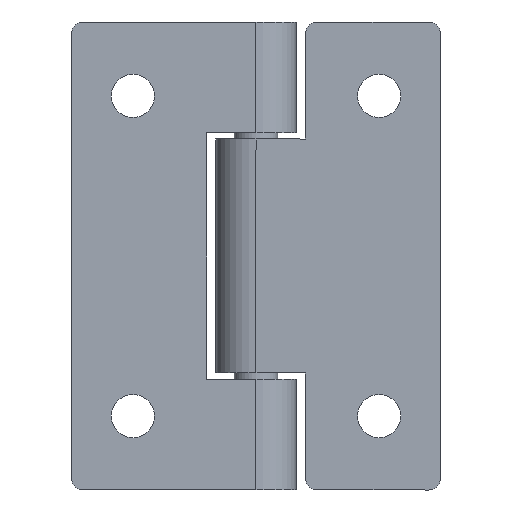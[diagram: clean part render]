
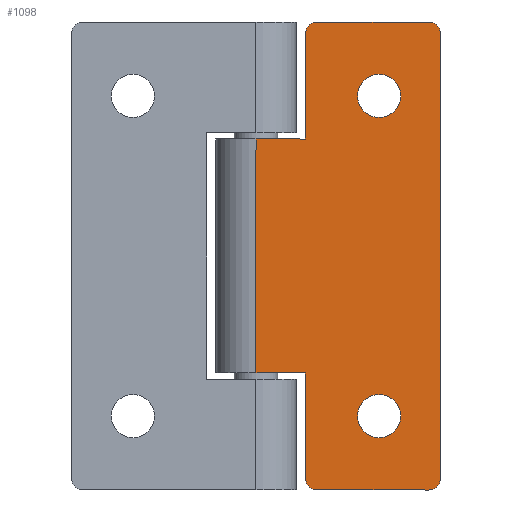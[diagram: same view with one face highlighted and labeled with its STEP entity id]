
A CAD part, front view. The second image highlights one B-rep face of the part: STEP entity #1098.
In plain terms, the highlighted planar face has unit normal (0, -1, 0).
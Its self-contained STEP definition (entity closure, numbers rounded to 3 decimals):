
#4 = CARTESIAN_POINT ( 'NONE',  ( -14., -3.25, -19. ) ) ;
#12 = LINE ( 'NONE', #183, #1663 ) ;
#15 = AXIS2_PLACEMENT_3D ( 'NONE', #1851, #913, #2020 ) ;
#21 = EDGE_CURVE ( 'NONE', #1733, #369, #150, .T. ) ;
#33 = LINE ( 'NONE', #250, #2075 ) ;
#42 = VERTEX_POINT ( 'NONE', #68 ) ;
#51 = CARTESIAN_POINT ( 'NONE',  ( -10., -3.25, -11.25 ) ) ;
#68 = CARTESIAN_POINT ( 'NONE',  ( -5., -3.25, -19. ) ) ;
#76 = VERTEX_POINT ( 'NONE', #51 ) ;
#103 = CARTESIAN_POINT ( 'NONE',  ( -10., -3.25, 14.75 ) ) ;
#112 = DIRECTION ( 'NONE',  ( 1., 0., 0. ) ) ;
#132 = DIRECTION ( 'NONE',  ( 1., 0., 0. ) ) ;
#133 = AXIS2_PLACEMENT_3D ( 'NONE', #1238, #275, #1390 ) ;
#148 = ORIENTED_EDGE ( 'NONE', *, *, #905, .T. ) ;
#150 = LINE ( 'NONE', #947, #919 ) ;
#162 = DIRECTION ( 'NONE',  ( 0., -1., 0. ) ) ;
#179 = LINE ( 'NONE', #621, #1405 ) ;
#183 = CARTESIAN_POINT ( 'NONE',  ( 0., -3.25, 19. ) ) ;
#189 = CIRCLE ( 'NONE', #456, 1. ) ;
#230 = LINE ( 'NONE', #1891, #551 ) ;
#246 = EDGE_CURVE ( 'NONE', #1018, #1668, #12, .T. ) ;
#250 = CARTESIAN_POINT ( 'NONE',  ( 0., -3.25, 19. ) ) ;
#271 = CARTESIAN_POINT ( 'NONE',  ( -14., -3.25, 18. ) ) ;
#275 = DIRECTION ( 'NONE',  ( 0., -1., 0. ) ) ;
#297 = ORIENTED_EDGE ( 'NONE', *, *, #1158, .F. ) ;
#300 = VERTEX_POINT ( 'NONE', #426 ) ;
#305 = DIRECTION ( 'NONE',  ( -1., 0., 0. ) ) ;
#319 = DIRECTION ( 'NONE',  ( 1., 0., 0. ) ) ;
#341 = ORIENTED_EDGE ( 'NONE', *, *, #1761, .T. ) ;
#344 = CARTESIAN_POINT ( 'NONE',  ( -4., -3.25, 18. ) ) ;
#348 = AXIS2_PLACEMENT_3D ( 'NONE', #1717, #1884, #2038 ) ;
#349 = AXIS2_PLACEMENT_3D ( 'NONE', #2009, #1999, #1805 ) ;
#361 = VERTEX_POINT ( 'NONE', #877 ) ;
#369 = VERTEX_POINT ( 'NONE', #1673 ) ;
#386 = AXIS2_PLACEMENT_3D ( 'NONE', #948, #162, #319 ) ;
#426 = CARTESIAN_POINT ( 'NONE',  ( -4., -3.25, -9.5 ) ) ;
#429 = VERTEX_POINT ( 'NONE', #103 ) ;
#456 = AXIS2_PLACEMENT_3D ( 'NONE', #271, #926, #1089 ) ;
#457 = EDGE_LOOP ( 'NONE', ( #1053, #1144 ) ) ;
#465 = EDGE_CURVE ( 'NONE', #988, #76, #480, .T. ) ;
#469 = DIRECTION ( 'NONE',  ( 1., 0., 0. ) ) ;
#480 = CIRCLE ( 'NONE', #349, 1.75 ) ;
#482 = CARTESIAN_POINT ( 'NONE',  ( -4., -3.25, 0. ) ) ;
#490 = DIRECTION ( 'NONE',  ( 0., 0., 1. ) ) ;
#513 = EDGE_CURVE ( 'NONE', #369, #361, #33, .T. ) ;
#542 = CIRCLE ( 'NONE', #133, 1. ) ;
#551 = VECTOR ( 'NONE', #1269, 1000. ) ;
#590 = CARTESIAN_POINT ( 'NONE',  ( -15., -3.25, 18. ) ) ;
#621 = CARTESIAN_POINT ( 'NONE',  ( 0., -3.25, -19. ) ) ;
#622 = ORIENTED_EDGE ( 'NONE', *, *, #1907, .T. ) ;
#660 = CIRCLE ( 'NONE', #961, 1.75 ) ;
#668 = AXIS2_PLACEMENT_3D ( 'NONE', #1092, #936, #112 ) ;
#673 = FACE_OUTER_BOUND ( 'NONE', #899, .T. ) ;
#767 = CARTESIAN_POINT ( 'NONE',  ( 0., -3.25, -9.5 ) ) ;
#833 = DIRECTION ( 'NONE',  ( -1., 0., 0. ) ) ;
#835 = DIRECTION ( 'NONE',  ( 0., 0., 1. ) ) ;
#877 = CARTESIAN_POINT ( 'NONE',  ( 0., -3.25, -9.5 ) ) ;
#899 = EDGE_LOOP ( 'NONE', ( #1829, #1543, #341, #2062, #1034, #1428, #622, #148, #2068, #949, #1168, #1935 ) ) ;
#905 = EDGE_CURVE ( 'NONE', #1899, #1018, #1540, .T. ) ;
#913 = DIRECTION ( 'NONE',  ( 0., -1., 0. ) ) ;
#919 = VECTOR ( 'NONE', #469, 1000. ) ;
#926 = DIRECTION ( 'NONE',  ( 0., -1., 0. ) ) ;
#936 = DIRECTION ( 'NONE',  ( 0., -1., 0. ) ) ;
#941 = CARTESIAN_POINT ( 'NONE',  ( -10., -3.25, -13. ) ) ;
#946 = CARTESIAN_POINT ( 'NONE',  ( -15., -3.25, -18. ) ) ;
#947 = CARTESIAN_POINT ( 'NONE',  ( 0., -3.25, 9.5 ) ) ;
#948 = CARTESIAN_POINT ( 'NONE',  ( -5., -3.25, 18. ) ) ;
#949 = ORIENTED_EDGE ( 'NONE', *, *, #1127, .T. ) ;
#961 = AXIS2_PLACEMENT_3D ( 'NONE', #941, #2045, #1102 ) ;
#986 = CARTESIAN_POINT ( 'NONE',  ( -4., -3.25, -18. ) ) ;
#988 = VERTEX_POINT ( 'NONE', #1433 ) ;
#1018 = VERTEX_POINT ( 'NONE', #1599 ) ;
#1034 = ORIENTED_EDGE ( 'NONE', *, *, #513, .F. ) ;
#1053 = ORIENTED_EDGE ( 'NONE', *, *, #1615, .F. ) ;
#1076 = CARTESIAN_POINT ( 'NONE',  ( -10., -3.25, 11.25 ) ) ;
#1089 = DIRECTION ( 'NONE',  ( 1., 0., 0. ) ) ;
#1092 = CARTESIAN_POINT ( 'NONE',  ( -10., -3.25, 13. ) ) ;
#1098 = ADVANCED_FACE ( 'NONE', ( #673, #1112, #1890 ), #1566, .T. ) ;
#1102 = DIRECTION ( 'NONE',  ( 1., 0., 0. ) ) ;
#1106 = VERTEX_POINT ( 'NONE', #946 ) ;
#1108 = DIRECTION ( 'NONE',  ( 0., -1., 0. ) ) ;
#1112 = FACE_BOUND ( 'NONE', #457, .T. ) ;
#1127 = EDGE_CURVE ( 'NONE', #1668, #1358, #189, .T. ) ;
#1144 = ORIENTED_EDGE ( 'NONE', *, *, #465, .F. ) ;
#1158 = EDGE_CURVE ( 'NONE', #1309, #429, #1465, .T. ) ;
#1168 = ORIENTED_EDGE ( 'NONE', *, *, #1675, .T. ) ;
#1183 = AXIS2_PLACEMENT_3D ( 'NONE', #2053, #1108, #132 ) ;
#1211 = VECTOR ( 'NONE', #490, 1000. ) ;
#1238 = CARTESIAN_POINT ( 'NONE',  ( -5., -3.25, -18. ) ) ;
#1263 = CARTESIAN_POINT ( 'NONE',  ( -14., -3.25, 19. ) ) ;
#1269 = DIRECTION ( 'NONE',  ( 0., 0., -1. ) ) ;
#1279 = EDGE_CURVE ( 'NONE', #1106, #1837, #1911, .T. ) ;
#1286 = VECTOR ( 'NONE', #835, 1000. ) ;
#1309 = VERTEX_POINT ( 'NONE', #1076 ) ;
#1338 = EDGE_CURVE ( 'NONE', #42, #1915, #542, .T. ) ;
#1343 = LINE ( 'NONE', #767, #1714 ) ;
#1358 = VERTEX_POINT ( 'NONE', #590 ) ;
#1361 = EDGE_CURVE ( 'NONE', #300, #361, #1343, .T. ) ;
#1390 = DIRECTION ( 'NONE',  ( 1., 0., 0. ) ) ;
#1405 = VECTOR ( 'NONE', #305, 1000. ) ;
#1411 = EDGE_LOOP ( 'NONE', ( #1472, #297 ) ) ;
#1428 = ORIENTED_EDGE ( 'NONE', *, *, #21, .F. ) ;
#1432 = CARTESIAN_POINT ( 'NONE',  ( -4., -3.25, 9.5 ) ) ;
#1433 = CARTESIAN_POINT ( 'NONE',  ( -10., -3.25, -14.75 ) ) ;
#1465 = CIRCLE ( 'NONE', #668, 1.75 ) ;
#1472 = ORIENTED_EDGE ( 'NONE', *, *, #1651, .F. ) ;
#1540 = CIRCLE ( 'NONE', #386, 1. ) ;
#1543 = ORIENTED_EDGE ( 'NONE', *, *, #1338, .T. ) ;
#1566 = PLANE ( 'NONE',  #348 ) ;
#1599 = CARTESIAN_POINT ( 'NONE',  ( -5., -3.25, 19. ) ) ;
#1614 = CARTESIAN_POINT ( 'NONE',  ( -4., -3.25, 0. ) ) ;
#1615 = EDGE_CURVE ( 'NONE', #76, #988, #660, .T. ) ;
#1650 = DIRECTION ( 'NONE',  ( 0., 0., -1. ) ) ;
#1651 = EDGE_CURVE ( 'NONE', #429, #1309, #2034, .T. ) ;
#1663 = VECTOR ( 'NONE', #833, 1000. ) ;
#1668 = VERTEX_POINT ( 'NONE', #1263 ) ;
#1670 = EDGE_CURVE ( 'NONE', #42, #1837, #179, .T. ) ;
#1673 = CARTESIAN_POINT ( 'NONE',  ( 0., -3.25, 9.5 ) ) ;
#1675 = EDGE_CURVE ( 'NONE', #1358, #1106, #230, .T. ) ;
#1699 = LINE ( 'NONE', #1614, #1286 ) ;
#1714 = VECTOR ( 'NONE', #2035, 1000. ) ;
#1717 = CARTESIAN_POINT ( 'NONE',  ( 0., -3.25, 19. ) ) ;
#1733 = VERTEX_POINT ( 'NONE', #1432 ) ;
#1761 = EDGE_CURVE ( 'NONE', #1915, #300, #2058, .T. ) ;
#1805 = DIRECTION ( 'NONE',  ( 1., 0., 0. ) ) ;
#1829 = ORIENTED_EDGE ( 'NONE', *, *, #1670, .F. ) ;
#1837 = VERTEX_POINT ( 'NONE', #4 ) ;
#1851 = CARTESIAN_POINT ( 'NONE',  ( -14., -3.25, -18. ) ) ;
#1884 = DIRECTION ( 'NONE',  ( 0., -1., 0. ) ) ;
#1890 = FACE_BOUND ( 'NONE', #1411, .T. ) ;
#1891 = CARTESIAN_POINT ( 'NONE',  ( -15., -3.25, 19. ) ) ;
#1899 = VERTEX_POINT ( 'NONE', #344 ) ;
#1907 = EDGE_CURVE ( 'NONE', #1733, #1899, #1699, .T. ) ;
#1911 = CIRCLE ( 'NONE', #15, 1. ) ;
#1915 = VERTEX_POINT ( 'NONE', #986 ) ;
#1935 = ORIENTED_EDGE ( 'NONE', *, *, #1279, .T. ) ;
#1999 = DIRECTION ( 'NONE',  ( 0., -1., 0. ) ) ;
#2009 = CARTESIAN_POINT ( 'NONE',  ( -10., -3.25, -13. ) ) ;
#2020 = DIRECTION ( 'NONE',  ( 1., 0., 0. ) ) ;
#2034 = CIRCLE ( 'NONE', #1183, 1.75 ) ;
#2035 = DIRECTION ( 'NONE',  ( 1., 0., 0. ) ) ;
#2038 = DIRECTION ( 'NONE',  ( 1., 0., 0. ) ) ;
#2045 = DIRECTION ( 'NONE',  ( 0., -1., 0. ) ) ;
#2053 = CARTESIAN_POINT ( 'NONE',  ( -10., -3.25, 13. ) ) ;
#2058 = LINE ( 'NONE', #482, #1211 ) ;
#2062 = ORIENTED_EDGE ( 'NONE', *, *, #1361, .T. ) ;
#2068 = ORIENTED_EDGE ( 'NONE', *, *, #246, .T. ) ;
#2075 = VECTOR ( 'NONE', #1650, 1000. ) ;
